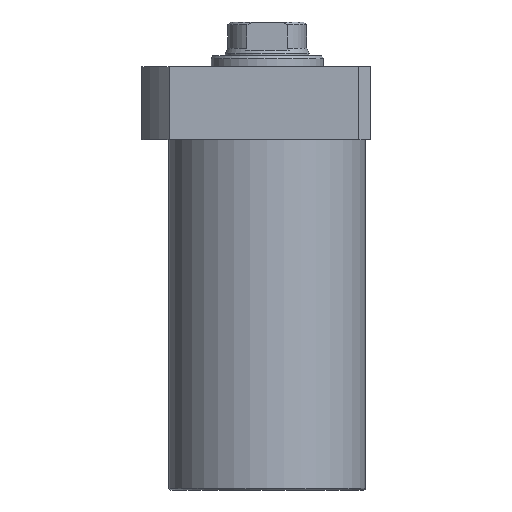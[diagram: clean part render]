
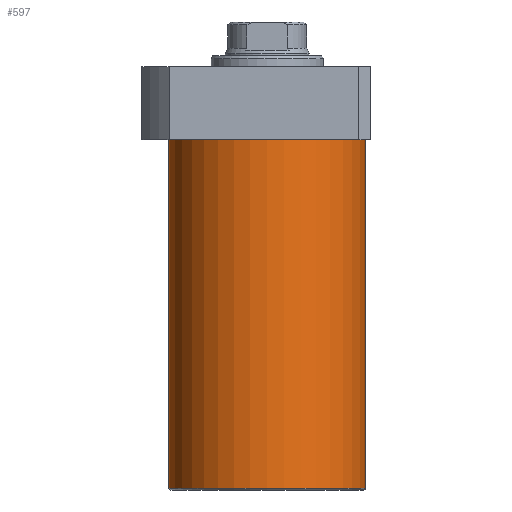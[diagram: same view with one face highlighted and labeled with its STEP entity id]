
A CAD part, front view. The second image highlights one B-rep face of the part: STEP entity #597.
In plain terms, the highlighted cylindrical face has radius 52.5 mm (diameter 105 mm), a partial arc.
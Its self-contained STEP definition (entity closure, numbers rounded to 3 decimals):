
#18 = FACE_OUTER_BOUND ( 'NONE', #1507, .T. ) ;
#27 = CARTESIAN_POINT ( 'NONE',  ( 52.5, 0., -205.5 ) ) ;
#40 = ORIENTED_EDGE ( 'NONE', *, *, #1282, .F. ) ;
#135 = DIRECTION ( 'NONE',  ( 1., 0., 0. ) ) ;
#192 = CYLINDRICAL_SURFACE ( 'NONE', #971, 52.5 ) ;
#257 = VECTOR ( 'NONE', #1829, 1000. ) ;
#276 = VERTEX_POINT ( 'NONE', #460 ) ;
#281 = EDGE_CURVE ( 'NONE', #1909, #1846, #1179, .T. ) ;
#320 = AXIS2_PLACEMENT_3D ( 'NONE', #1368, #1053, #456 ) ;
#456 = DIRECTION ( 'NONE',  ( 1., 0., 0. ) ) ;
#460 = CARTESIAN_POINT ( 'NONE',  ( 52.5, 0., -19.5 ) ) ;
#471 = DIRECTION ( 'NONE',  ( 0., 0., 1. ) ) ;
#542 = CARTESIAN_POINT ( 'NONE',  ( -52.5, 0., -19.5 ) ) ;
#544 = EDGE_CURVE ( 'NONE', #276, #1534, #1133, .T. ) ;
#587 = DIRECTION ( 'NONE',  ( 0., 0., 1. ) ) ;
#597 = ADVANCED_FACE ( 'NONE', ( #18 ), #192, .T. ) ;
#642 = CARTESIAN_POINT ( 'NONE',  ( -52.5, 0., -206.5 ) ) ;
#656 = ORIENTED_EDGE ( 'NONE', *, *, #544, .T. ) ;
#680 = ORIENTED_EDGE ( 'NONE', *, *, #281, .T. ) ;
#841 = CARTESIAN_POINT ( 'NONE',  ( 52.5, 0., -206.5 ) ) ;
#922 = DIRECTION ( 'NONE',  ( -1., 0., 0. ) ) ;
#971 = AXIS2_PLACEMENT_3D ( 'NONE', #1499, #587, #135 ) ;
#980 = LINE ( 'NONE', #841, #1312 ) ;
#1053 = DIRECTION ( 'NONE',  ( 0., 0., -1. ) ) ;
#1075 = AXIS2_PLACEMENT_3D ( 'NONE', #1372, #471, #922 ) ;
#1126 = CARTESIAN_POINT ( 'NONE',  ( -52.5, 0., -205.5 ) ) ;
#1133 = CIRCLE ( 'NONE', #320, 52.5 ) ;
#1179 = CIRCLE ( 'NONE', #1075, 52.5 ) ;
#1282 = EDGE_CURVE ( 'NONE', #1909, #1534, #1479, .T. ) ;
#1312 = VECTOR ( 'NONE', #1447, 1000. ) ;
#1368 = CARTESIAN_POINT ( 'NONE',  ( 0., 0., -19.5 ) ) ;
#1372 = CARTESIAN_POINT ( 'NONE',  ( 0., 0., -205.5 ) ) ;
#1435 = EDGE_CURVE ( 'NONE', #1846, #276, #980, .T. ) ;
#1447 = DIRECTION ( 'NONE',  ( 0., 0., 1. ) ) ;
#1479 = LINE ( 'NONE', #642, #257 ) ;
#1499 = CARTESIAN_POINT ( 'NONE',  ( 0., 0., -206.5 ) ) ;
#1507 = EDGE_LOOP ( 'NONE', ( #40, #680, #1880, #656 ) ) ;
#1534 = VERTEX_POINT ( 'NONE', #542 ) ;
#1829 = DIRECTION ( 'NONE',  ( 0., 0., 1. ) ) ;
#1846 = VERTEX_POINT ( 'NONE', #27 ) ;
#1880 = ORIENTED_EDGE ( 'NONE', *, *, #1435, .T. ) ;
#1909 = VERTEX_POINT ( 'NONE', #1126 ) ;
